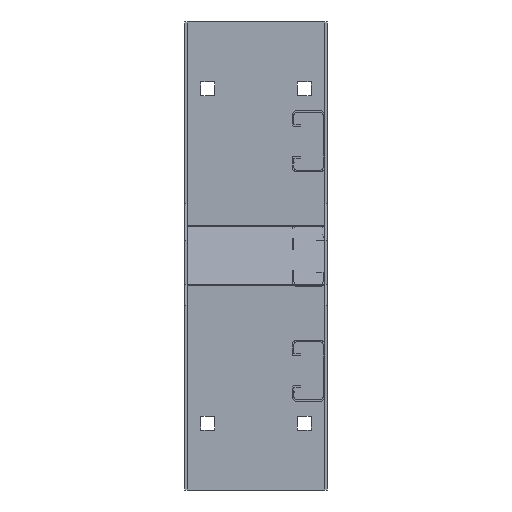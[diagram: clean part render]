
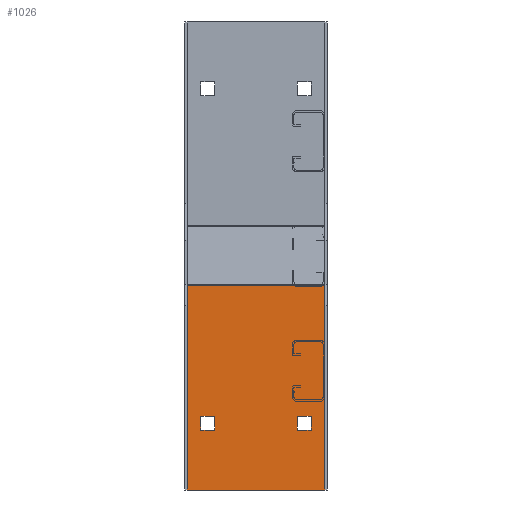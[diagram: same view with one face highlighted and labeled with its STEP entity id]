
A CAD part, left-side view. The second image highlights one B-rep face of the part: STEP entity #1026.
In plain terms, the highlighted planar face has unit normal (-1, 0, 0).
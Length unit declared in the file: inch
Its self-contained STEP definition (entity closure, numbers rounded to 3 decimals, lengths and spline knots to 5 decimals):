
#109=DIRECTION('',(0.,0.,-1.));
#110=VECTOR('',#109,6.0433);
#111=CARTESIAN_POINT('',(-3.075,4.11,-7.68875));
#112=LINE('',#111,#110);
#177=DIRECTION('',(0.,0.,-1.));
#178=VECTOR('',#177,6.0433);
#179=CARTESIAN_POINT('',(-3.075,0.08,-7.68875));
#180=LINE('',#179,#178);
#181=DIRECTION('',(0.,1.,0.));
#182=VECTOR('',#181,4.03);
#183=CARTESIAN_POINT('',(-3.075,0.08,-7.68875));
#184=LINE('',#183,#182);
#185=DIRECTION('',(0.,0.,1.));
#186=VECTOR('',#185,0.41);
#187=CARTESIAN_POINT('',(-3.075,0.4725,-11.97705));
#188=LINE('',#187,#186);
#189=DIRECTION('',(0.,1.,0.));
#190=VECTOR('',#189,0.41);
#191=CARTESIAN_POINT('',(-3.075,0.4725,-11.56705));
#192=LINE('',#191,#190);
#193=DIRECTION('',(0.,0.,-1.));
#194=VECTOR('',#193,0.41);
#195=CARTESIAN_POINT('',(-3.075,0.8825,-11.56705));
#196=LINE('',#195,#194);
#197=DIRECTION('',(0.,-1.,0.));
#198=VECTOR('',#197,0.41);
#199=CARTESIAN_POINT('',(-3.075,0.8825,-11.97705));
#200=LINE('',#199,#198);
#201=DIRECTION('',(0.,-1.,0.));
#202=VECTOR('',#201,0.41);
#203=CARTESIAN_POINT('',(-3.075,3.7175,-11.97705));
#204=LINE('',#203,#202);
#205=DIRECTION('',(0.,0.,1.));
#206=VECTOR('',#205,0.41);
#207=CARTESIAN_POINT('',(-3.075,3.3075,-11.97705));
#208=LINE('',#207,#206);
#209=DIRECTION('',(0.,1.,0.));
#210=VECTOR('',#209,0.41);
#211=CARTESIAN_POINT('',(-3.075,3.3075,-11.56705));
#212=LINE('',#211,#210);
#213=DIRECTION('',(0.,0.,-1.));
#214=VECTOR('',#213,0.41);
#215=CARTESIAN_POINT('',(-3.075,3.7175,-11.56705));
#216=LINE('',#215,#214);
#225=DIRECTION('',(0.,1.,0.));
#226=VECTOR('',#225,4.03);
#227=CARTESIAN_POINT('',(-3.075,0.08,-13.73205));
#228=LINE('',#227,#226);
#629=CARTESIAN_POINT('',(-3.075,0.08,-7.68875));
#630=CARTESIAN_POINT('',(-3.075,4.11,-7.68875));
#631=VERTEX_POINT('',#629);
#632=VERTEX_POINT('',#630);
#649=CARTESIAN_POINT('',(-3.075,0.08,-13.73205));
#650=VERTEX_POINT('',#649);
#651=CARTESIAN_POINT('',(-3.075,4.11,-13.73205));
#652=VERTEX_POINT('',#651);
#730=CARTESIAN_POINT('',(-3.075,0.4725,-11.97705));
#732=VERTEX_POINT('',#730);
#734=CARTESIAN_POINT('',(-3.075,0.4725,-11.56705));
#736=VERTEX_POINT('',#734);
#738=CARTESIAN_POINT('',(-3.075,0.8825,-11.56705));
#740=VERTEX_POINT('',#738);
#742=CARTESIAN_POINT('',(-3.075,0.8825,-11.97705));
#744=VERTEX_POINT('',#742);
#746=CARTESIAN_POINT('',(-3.075,3.7175,-11.97705));
#748=VERTEX_POINT('',#746);
#750=CARTESIAN_POINT('',(-3.075,3.3075,-11.97705));
#752=VERTEX_POINT('',#750);
#754=CARTESIAN_POINT('',(-3.075,3.3075,-11.56705));
#756=VERTEX_POINT('',#754);
#758=CARTESIAN_POINT('',(-3.075,3.7175,-11.56705));
#760=VERTEX_POINT('',#758);
#994=CARTESIAN_POINT('',(-3.075,0.08,-7.73205));
#995=DIRECTION('',(-1.,0.,0.));
#996=DIRECTION('',(0.,1.,0.));
#997=AXIS2_PLACEMENT_3D('',#994,#995,#996);
#998=PLANE('',#997);
#999=ORIENTED_EDGE('',*,*,#976,.T.);
#1001=ORIENTED_EDGE('',*,*,#1000,.T.);
#1002=ORIENTED_EDGE('',*,*,#905,.F.);
#1003=ORIENTED_EDGE('',*,*,#987,.F.);
#1004=EDGE_LOOP('',(#999,#1001,#1002,#1003));
#1005=FACE_OUTER_BOUND('',#1004,.F.);
#1007=ORIENTED_EDGE('',*,*,#1006,.T.);
#1009=ORIENTED_EDGE('',*,*,#1008,.T.);
#1011=ORIENTED_EDGE('',*,*,#1010,.T.);
#1013=ORIENTED_EDGE('',*,*,#1012,.T.);
#1014=EDGE_LOOP('',(#1007,#1009,#1011,#1013));
#1015=FACE_BOUND('',#1014,.F.);
#1017=ORIENTED_EDGE('',*,*,#1016,.T.);
#1019=ORIENTED_EDGE('',*,*,#1018,.T.);
#1021=ORIENTED_EDGE('',*,*,#1020,.T.);
#1023=ORIENTED_EDGE('',*,*,#1022,.T.);
#1024=EDGE_LOOP('',(#1017,#1019,#1021,#1023));
#1025=FACE_BOUND('',#1024,.F.);
#1026=ADVANCED_FACE('',(#1005,#1015,#1025),#998,.T.);
#905=EDGE_CURVE('',#632,#652,#112,.T.);
#976=EDGE_CURVE('',#631,#650,#180,.T.);
#987=EDGE_CURVE('',#631,#632,#184,.T.);
#1000=EDGE_CURVE('',#650,#652,#228,.T.);
#1006=EDGE_CURVE('',#732,#736,#188,.T.);
#1008=EDGE_CURVE('',#736,#740,#192,.T.);
#1010=EDGE_CURVE('',#740,#744,#196,.T.);
#1012=EDGE_CURVE('',#744,#732,#200,.T.);
#1016=EDGE_CURVE('',#748,#752,#204,.T.);
#1018=EDGE_CURVE('',#752,#756,#208,.T.);
#1020=EDGE_CURVE('',#756,#760,#212,.T.);
#1022=EDGE_CURVE('',#760,#748,#216,.T.);
